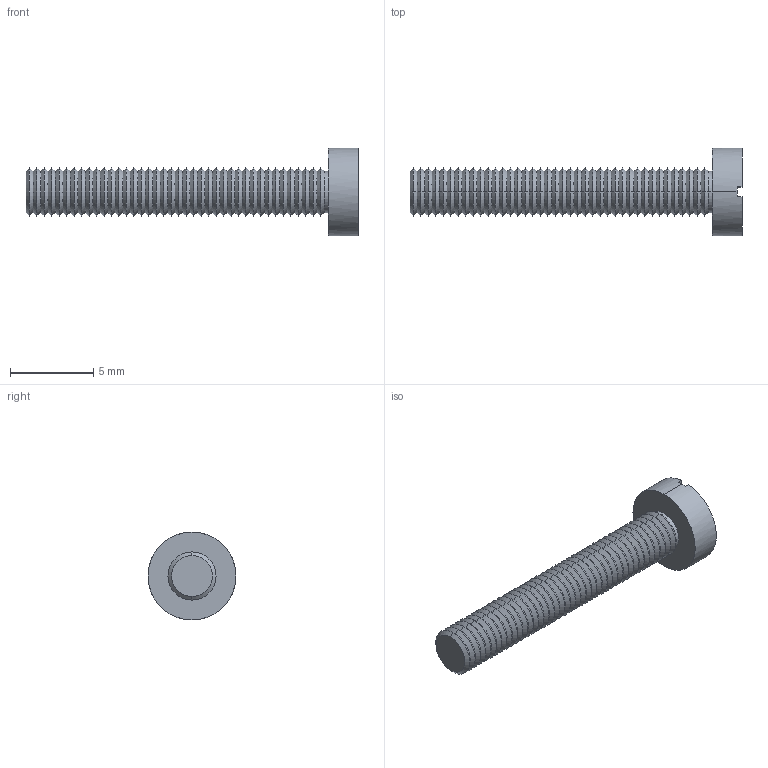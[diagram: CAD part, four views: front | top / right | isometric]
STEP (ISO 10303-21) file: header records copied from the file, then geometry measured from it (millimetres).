
FILE_DESCRIPTION (( 'STEP AP214' ), '1' );
FILE_NAME ('Cargol M 3x8 PP60A.STEP', '2016-10-09T14:12:47', ( 'aaa' ), ( '' ), 'SwSTEP 2.0', 'SolidWorks 2013', '' );
FILE_SCHEMA (( 'AUTOMOTIVE_DESIGN' ));
Length unit declared in the file: millimetre
Products named in the file (1): Cargol M 3x8 PP60A
Bounding box: 20 x 5.3 x 5.3 mm (x, y, z)
Volume: 142.9 mm3; surface area: 282.7 mm2
Topology: 1 solids, 1 shells, 171 faces, 344 edges, 176 vertices
Faces by surface type: cone 160, plane 7, cylinder 4
Entity records: 4344 total; most frequent: DIRECTION 860, CARTESIAN_POINT 692, ORIENTED_EDGE 688, AXIS2_PLACEMENT_3D 344, EDGE_CURVE 344, VERTEX_POINT 176, CIRCLE 172, VECTOR 172
